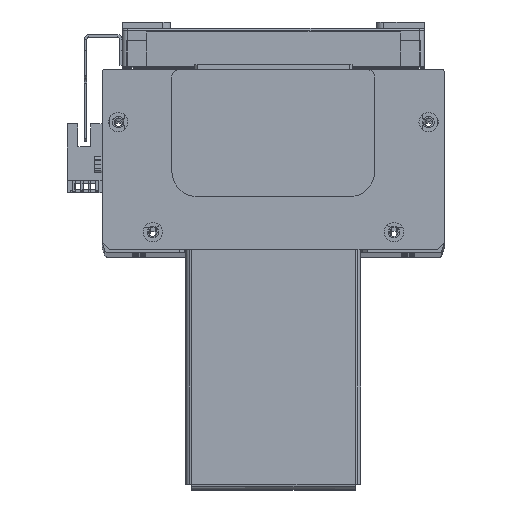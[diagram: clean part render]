
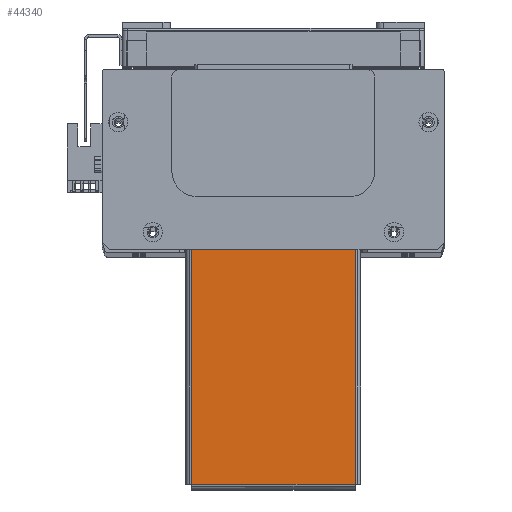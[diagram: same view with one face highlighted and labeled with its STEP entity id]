
A CAD part, top view. The second image highlights one B-rep face of the part: STEP entity #44340.
In plain terms, the highlighted planar face has unit normal (0, 0, 1) as drawn and (0, -1, 0) by its records, which use the part's own axes.
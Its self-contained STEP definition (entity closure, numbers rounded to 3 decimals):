
#18136 = PLANE ( 'NONE',  #24288 ) ;
#18193 = CARTESIAN_POINT ( 'NONE',  ( 0., -1.5, 0. ) ) ;
#18197 = DIRECTION ( 'NONE',  ( 0., 1., 0. ) ) ;
#18226 = DIRECTION ( 'NONE',  ( 0., 0., 1. ) ) ;
#21089 = FACE_OUTER_BOUND ( 'NONE', #32816, .T. ) ;
#24288 = AXIS2_PLACEMENT_3D ( 'NONE', #18193, #18197, #18226 ) ;
#25103 = VERTEX_POINT ( 'NONE', #26990 ) ;
#25184 = VERTEX_POINT ( 'NONE', #27009 ) ;
#25610 = VERTEX_POINT ( 'NONE', #27077 ) ;
#25611 = VERTEX_POINT ( 'NONE', #27118 ) ;
#26990 = CARTESIAN_POINT ( 'NONE',  ( -2., -1.5, -32.263 ) ) ;
#27009 = CARTESIAN_POINT ( 'NONE',  ( -94.763, -1.5, -32.263 ) ) ;
#27077 = CARTESIAN_POINT ( 'NONE',  ( -2., -1.5, 32.263 ) ) ;
#27118 = CARTESIAN_POINT ( 'NONE',  ( -94.763, -1.5, 32.263 ) ) ;
#28893 = ORIENTED_EDGE ( 'NONE', *, *, #52240, .T. ) ;
#28905 = ORIENTED_EDGE ( 'NONE', *, *, #52290, .F. ) ;
#29013 = ORIENTED_EDGE ( 'NONE', *, *, #52250, .T. ) ;
#29023 = ORIENTED_EDGE ( 'NONE', *, *, #52289, .T. ) ;
#32816 = EDGE_LOOP ( 'NONE', ( #29013, #28905, #29023, #28893 ) ) ;
#42924 = DIRECTION ( 'NONE',  ( 0., 0., -1. ) ) ;
#42927 = CARTESIAN_POINT ( 'NONE',  ( -94.763, -1.5, 32.293 ) ) ;
#42944 = CARTESIAN_POINT ( 'NONE',  ( -94.793, -1.5, -32.263 ) ) ;
#42956 = DIRECTION ( 'NONE',  ( 1., 0., 0. ) ) ;
#43050 = CARTESIAN_POINT ( 'NONE',  ( 94.793, -1.5, 32.263 ) ) ;
#43051 = CARTESIAN_POINT ( 'NONE',  ( -2., -1.5, 34.5 ) ) ;
#43063 = DIRECTION ( 'NONE',  ( -1., 0., 0. ) ) ;
#43070 = DIRECTION ( 'NONE',  ( 0., 0., -1. ) ) ;
#44340 = ADVANCED_FACE ( 'NONE', ( #21089 ), #18136, .F. ) ;
#45375 = LINE ( 'NONE', #42927, #45385 ) ;
#45385 = VECTOR ( 'NONE', #42924, 1000. ) ;
#45471 = VECTOR ( 'NONE', #42956, 1000. ) ;
#45505 = LINE ( 'NONE', #42944, #45471 ) ;
#45541 = VECTOR ( 'NONE', #43070, 1000. ) ;
#45553 = LINE ( 'NONE', #43051, #45541 ) ;
#45601 = LINE ( 'NONE', #43050, #45603 ) ;
#45603 = VECTOR ( 'NONE', #43063, 1000. ) ;
#52240 = EDGE_CURVE ( 'NONE', #25611, #25184, #45375, .T. ) ;
#52250 = EDGE_CURVE ( 'NONE', #25184, #25103, #45505, .T. ) ;
#52289 = EDGE_CURVE ( 'NONE', #25610, #25611, #45601, .T. ) ;
#52290 = EDGE_CURVE ( 'NONE', #25610, #25103, #45553, .T. ) ;
